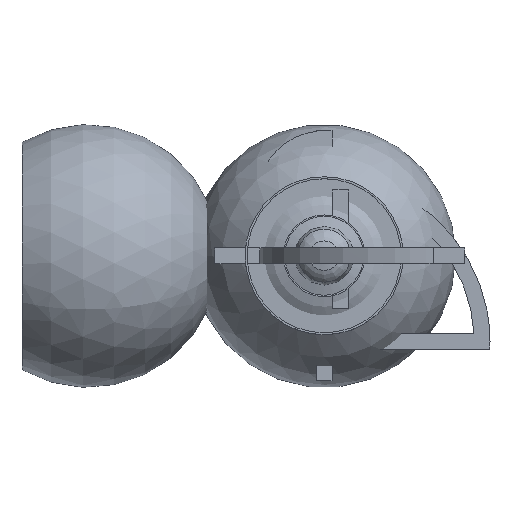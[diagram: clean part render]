
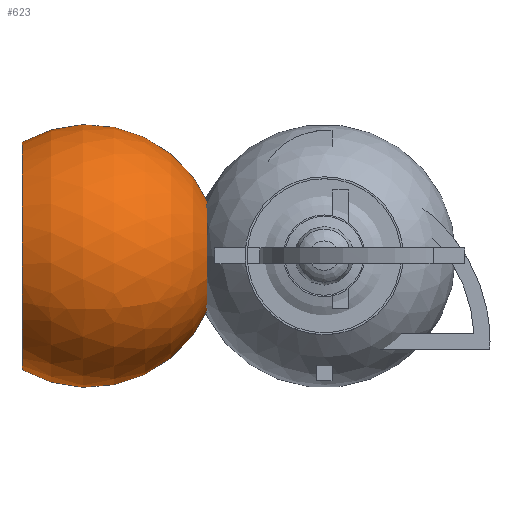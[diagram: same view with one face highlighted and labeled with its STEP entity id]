
A CAD part, top view. The second image highlights one B-rep face of the part: STEP entity #623.
In plain terms, the highlighted spherical face has radius 100 mm.
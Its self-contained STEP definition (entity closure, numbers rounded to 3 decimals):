
#623 = ADVANCED_FACE( '', ( #1435, #1436 ), #1437, .T. );
#1435 = FACE_OUTER_BOUND( '', #4310, .T. );
#1436 = FACE_OUTER_BOUND( '', #4311, .T. );
#1437 = SPHERICAL_SURFACE( '', #4312, 100. );
#4310 = EDGE_LOOP( '', ( #6916 ) );
#4311 = EDGE_LOOP( '', ( #6917 ) );
#4312 = AXIS2_PLACEMENT_3D( '', #6918, #6919, #6920 );
#6916 = ORIENTED_EDGE( '', *, *, #7761, .F. );
#6917 = ORIENTED_EDGE( '', *, *, #7762, .F. );
#6918 = CARTESIAN_POINT( '', ( 0., 0., -87. ) );
#6919 = DIRECTION( '', ( 0., 0., -1. ) );
#6920 = DIRECTION( '', ( -1., 0., 0. ) );
#7761 = EDGE_CURVE( '', #9164, #9164, #9165, .F. );
#7762 = EDGE_CURVE( '', #9166, #9166, #9167, .T. );
#9164 = VERTEX_POINT( '', #13399 );
#9165 = CIRCLE( '', #13400, 15.5 );
#9166 = VERTEX_POINT( '', #13401 );
#9167 = CIRCLE( '', #13402, 86.603 );
#13399 = CARTESIAN_POINT( '', ( -15.5, 0., 11.791 ) );
#13400 = AXIS2_PLACEMENT_3D( '', #14639, #14640, #14641 );
#13401 = CARTESIAN_POINT( '', ( -86.603, 0., -137. ) );
#13402 = AXIS2_PLACEMENT_3D( '', #14642, #14643, #14644 );
#14639 = CARTESIAN_POINT( '', ( 0., 0., 11.791 ) );
#14640 = DIRECTION( '', ( 0., 0., -1. ) );
#14641 = DIRECTION( '', ( -1., 0., 0. ) );
#14642 = CARTESIAN_POINT( '', ( 0., 0., -137. ) );
#14643 = DIRECTION( '', ( 0., 0., -1. ) );
#14644 = DIRECTION( '', ( -1., 0., 0. ) );
